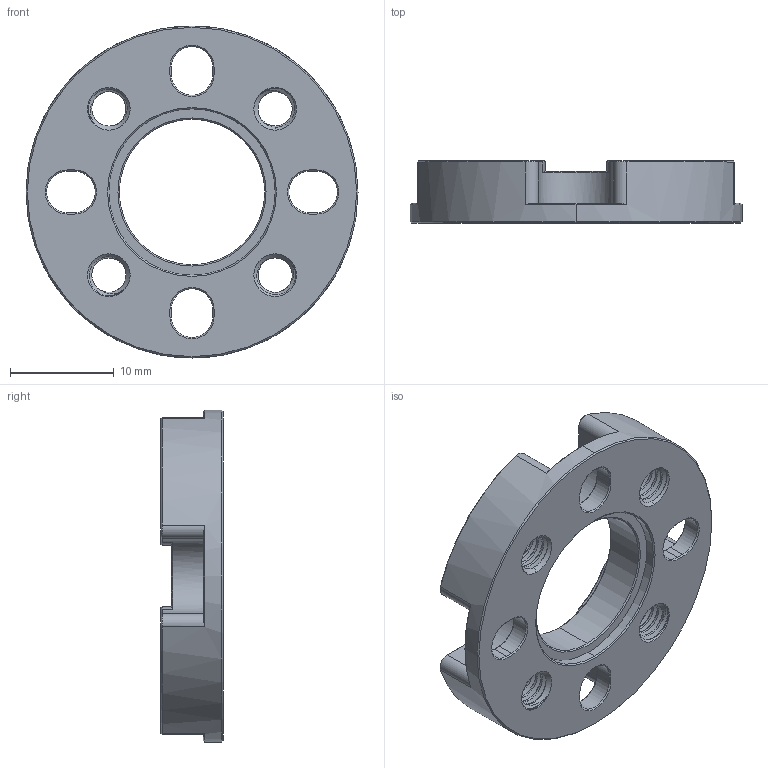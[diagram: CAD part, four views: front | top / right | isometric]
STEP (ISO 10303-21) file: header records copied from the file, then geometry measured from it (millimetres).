
FILE_DESCRIPTION (( 'STEP AP203' ), '1' );
FILE_NAME ('1505-0032-0060.STEP', '2021-09-23T14:42:20', ( '' ), ( '' ), 'SwSTEP 2.0', 'SolidWorks 2016', '' );
FILE_SCHEMA (( 'CONFIG_CONTROL_DESIGN' ));
Length unit declared in the file: millimetre
Products named in the file (1): 1505-0032-0060
Bounding box: 31.95 x 6 x 31.95 mm (x, y, z)
Volume: 2531.6 mm3; surface area: 2581.3 mm2
Topology: 1 solids, 1 shells, 336 faces, 906 edges, 573 vertices
Faces by surface type: cylinder 183, cone 94, plane 51, bspline 8
Entity records: 20796 total; most frequent: CARTESIAN_POINT 13024, ORIENTED_EDGE 1812, DIRECTION 1469, EDGE_CURVE 906, VERTEX_POINT 573, AXIS2_PLACEMENT_3D 552, LINE 365, VECTOR 365
